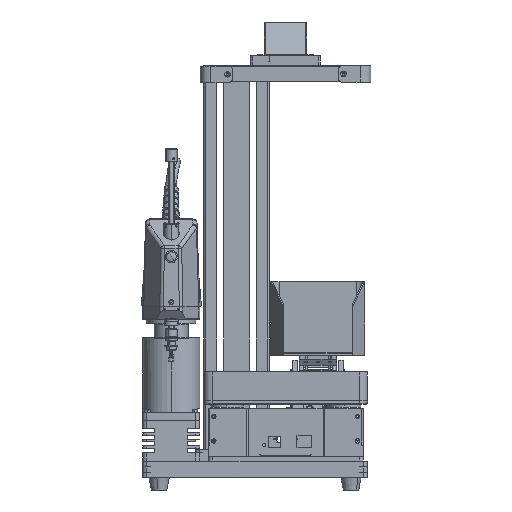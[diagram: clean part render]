
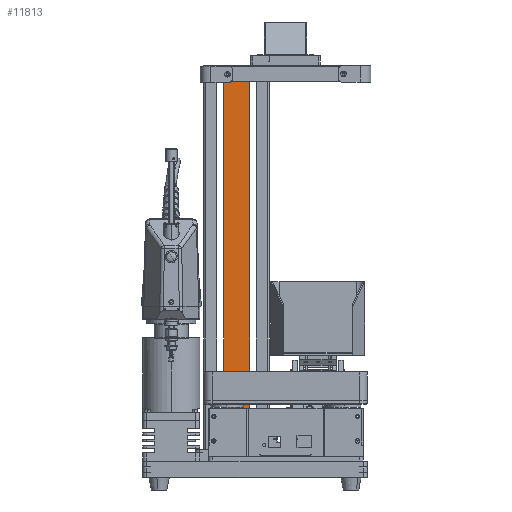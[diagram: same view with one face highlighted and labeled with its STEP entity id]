
A CAD part, front view. The second image highlights one B-rep face of the part: STEP entity #11813.
In plain terms, the highlighted planar face has unit normal (0, -1, 0).
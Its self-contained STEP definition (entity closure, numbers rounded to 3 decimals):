
#3506 = VERTEX_POINT ( 'NONE', #44589 ) ;
#11813 = ADVANCED_FACE ( 'NONE', ( #117643 ), #35541, .F. ) ;
#13002 = CARTESIAN_POINT ( 'NONE',  ( -22.474, 67.044, 25. ) ) ;
#13884 = CARTESIAN_POINT ( 'NONE',  ( -22.474, 67.044, 475. ) ) ;
#27874 = EDGE_CURVE ( 'NONE', #43292, #94940, #77119, .T. ) ;
#28056 = DIRECTION ( 'NONE',  ( 1., 0., 0. ) ) ;
#30907 = CARTESIAN_POINT ( 'NONE',  ( -46.674, 67.044, 475. ) ) ;
#32728 = AXIS2_PLACEMENT_3D ( 'NONE', #109111, #70825, #98174 ) ;
#33376 = ORIENTED_EDGE ( 'NONE', *, *, #66421, .F. ) ;
#33994 = EDGE_LOOP ( 'NONE', ( #84035, #73778, #117231, #33376 ) ) ;
#35541 = PLANE ( 'NONE',  #32728 ) ;
#43292 = VERTEX_POINT ( 'NONE', #13884 ) ;
#44523 = CARTESIAN_POINT ( 'NONE',  ( -46.674, 67.044, 25. ) ) ;
#44589 = CARTESIAN_POINT ( 'NONE',  ( 9.126, 67.044, 25. ) ) ;
#49782 = EDGE_CURVE ( 'NONE', #3506, #94940, #112610, .T. ) ;
#52535 = VECTOR ( 'NONE', #115413, 1000. ) ;
#54138 = DIRECTION ( 'NONE',  ( 0., 0., 1. ) ) ;
#54705 = VECTOR ( 'NONE', #54138, 1000. ) ;
#54927 = DIRECTION ( 'NONE',  ( 0., 0., 1. ) ) ;
#54937 = VECTOR ( 'NONE', #54927, 1000. ) ;
#59726 = CARTESIAN_POINT ( 'NONE',  ( 9.126, 67.044, 475. ) ) ;
#63274 = LINE ( 'NONE', #100328, #54705 ) ;
#66421 = EDGE_CURVE ( 'NONE', #105927, #43292, #63274, .T. ) ;
#67080 = VECTOR ( 'NONE', #28056, 1000. ) ;
#70825 = DIRECTION ( 'NONE',  ( 0., 1., 0. ) ) ;
#73778 = ORIENTED_EDGE ( 'NONE', *, *, #49782, .T. ) ;
#74285 = LINE ( 'NONE', #44523, #67080 ) ;
#74915 = CARTESIAN_POINT ( 'NONE',  ( 9.126, 67.044, 25. ) ) ;
#77119 = LINE ( 'NONE', #30907, #52535 ) ;
#84035 = ORIENTED_EDGE ( 'NONE', *, *, #110403, .T. ) ;
#94940 = VERTEX_POINT ( 'NONE', #59726 ) ;
#98174 = DIRECTION ( 'NONE',  ( 0., 0., 1. ) ) ;
#100328 = CARTESIAN_POINT ( 'NONE',  ( -22.474, 67.044, 25. ) ) ;
#105927 = VERTEX_POINT ( 'NONE', #13002 ) ;
#109111 = CARTESIAN_POINT ( 'NONE',  ( -46.674, 67.044, 475. ) ) ;
#110403 = EDGE_CURVE ( 'NONE', #105927, #3506, #74285, .T. ) ;
#112610 = LINE ( 'NONE', #74915, #54937 ) ;
#115413 = DIRECTION ( 'NONE',  ( 1., 0., 0. ) ) ;
#117231 = ORIENTED_EDGE ( 'NONE', *, *, #27874, .F. ) ;
#117643 = FACE_OUTER_BOUND ( 'NONE', #33994, .T. ) ;
